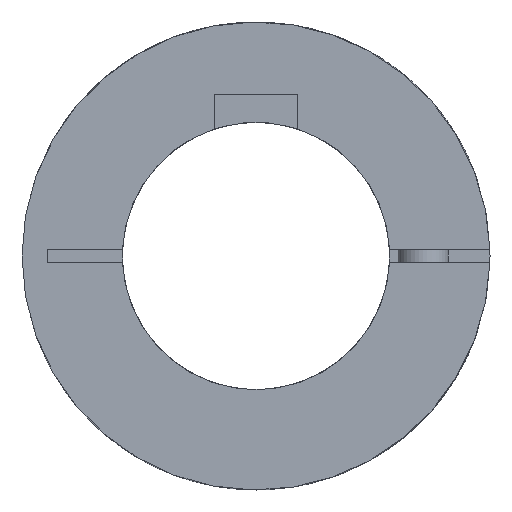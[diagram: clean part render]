
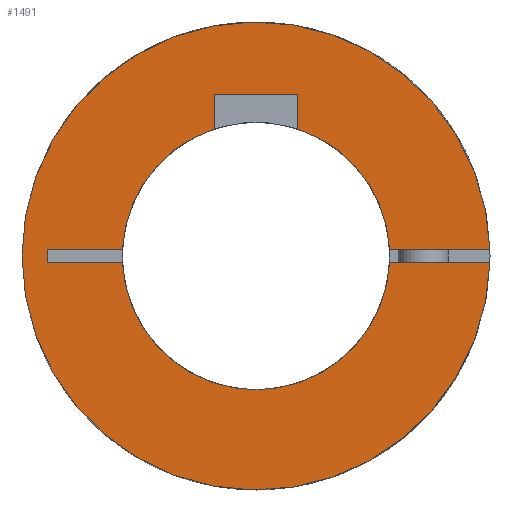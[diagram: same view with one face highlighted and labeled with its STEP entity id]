
A CAD part, left-side view. The second image highlights one B-rep face of the part: STEP entity #1491.
In plain terms, the highlighted planar face has unit normal (-1, 0, 0).
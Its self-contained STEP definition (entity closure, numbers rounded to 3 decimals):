
#23=PLANE('',#1696);
#141=LINE('',#2662,#252);
#144=LINE('',#2668,#255);
#145=LINE('',#2670,#256);
#155=LINE('',#2688,#266);
#157=LINE('',#2692,#268);
#160=LINE('',#2698,#271);
#161=LINE('',#2699,#272);
#162=LINE('',#2700,#273);
#252=VECTOR('',#2041,1.);
#255=VECTOR('',#2046,1.);
#256=VECTOR('',#2049,1.);
#266=VECTOR('',#2067,23.047);
#268=VECTOR('',#2071,20.057);
#271=VECTOR('',#2076,20.057);
#272=VECTOR('',#2077,1.5);
#273=VECTOR('',#2078,23.047);
#385=FACE_OUTER_BOUND('',#478,.T.);
#478=EDGE_LOOP('',(#1221,#1222,#1223,#1224,#1225,#1226,#1227,#1228,#1229,
#1230,#1231,#1232));
#609=CIRCLE('',#1639,28.);
#638=CIRCLE('',#1681,16.);
#641=CIRCLE('',#1685,16.);
#643=CIRCLE('',#1687,16.);
#701=VERTEX_POINT('',#2452);
#702=VERTEX_POINT('',#2454);
#741=VERTEX_POINT('',#2632);
#742=VERTEX_POINT('',#2633);
#747=VERTEX_POINT('',#2644);
#748=VERTEX_POINT('',#2646);
#751=VERTEX_POINT('',#2652);
#752=VERTEX_POINT('',#2654);
#754=VERTEX_POINT('',#2660);
#756=VERTEX_POINT('',#2666);
#761=VERTEX_POINT('',#2691);
#763=VERTEX_POINT('',#2697);
#867=EDGE_CURVE('',#701,#702,#609,.T.);
#918=EDGE_CURVE('',#741,#742,#638,.T.);
#924=EDGE_CURVE('',#748,#747,#641,.T.);
#928=EDGE_CURVE('',#752,#751,#643,.T.);
#932=EDGE_CURVE('',#751,#754,#141,.T.);
#935=EDGE_CURVE('',#754,#756,#144,.T.);
#936=EDGE_CURVE('',#756,#748,#145,.T.);
#946=EDGE_CURVE('',#701,#741,#155,.T.);
#948=EDGE_CURVE('',#761,#752,#157,.T.);
#951=EDGE_CURVE('',#763,#742,#160,.T.);
#952=EDGE_CURVE('',#761,#763,#161,.T.);
#953=EDGE_CURVE('',#747,#702,#162,.T.);
#1221=ORIENTED_EDGE('',*,*,#918,.T.);
#1222=ORIENTED_EDGE('',*,*,#951,.F.);
#1223=ORIENTED_EDGE('',*,*,#952,.F.);
#1224=ORIENTED_EDGE('',*,*,#948,.T.);
#1225=ORIENTED_EDGE('',*,*,#928,.T.);
#1226=ORIENTED_EDGE('',*,*,#932,.T.);
#1227=ORIENTED_EDGE('',*,*,#935,.T.);
#1228=ORIENTED_EDGE('',*,*,#936,.T.);
#1229=ORIENTED_EDGE('',*,*,#924,.T.);
#1230=ORIENTED_EDGE('',*,*,#953,.T.);
#1231=ORIENTED_EDGE('',*,*,#867,.F.);
#1232=ORIENTED_EDGE('',*,*,#946,.T.);
#1491=ADVANCED_FACE('',(#385),#23,.T.);
#1639=AXIS2_PLACEMENT_3D('',#2455,#1914,#1915);
#1681=AXIS2_PLACEMENT_3D('',#2634,#2017,#2018);
#1685=AXIS2_PLACEMENT_3D('',#2647,#2028,#2029);
#1687=AXIS2_PLACEMENT_3D('',#2655,#2034,#2035);
#1696=AXIS2_PLACEMENT_3D('',#2696,#2074,#2075);
#1914=DIRECTION('center_axis',(1.,0.,0.));
#1915=DIRECTION('ref_axis',(0.,1.,0.));
#2017=DIRECTION('center_axis',(1.,0.,0.));
#2018=DIRECTION('ref_axis',(0.,0.,1.));
#2028=DIRECTION('center_axis',(1.,0.,0.));
#2029=DIRECTION('ref_axis',(0.,0.,1.));
#2034=DIRECTION('center_axis',(1.,0.,0.));
#2035=DIRECTION('ref_axis',(0.,0.,1.));
#2041=DIRECTION('',(0.,0.,1.));
#2046=DIRECTION('',(0.,-1.,0.));
#2049=DIRECTION('',(0.,0.,-1.));
#2067=DIRECTION('',(0.,1.,0.));
#2071=DIRECTION('',(0.,-1.,0.));
#2074=DIRECTION('center_axis',(-1.,0.,0.));
#2075=DIRECTION('ref_axis',(0.,-1.,0.));
#2076=DIRECTION('',(0.,-1.,0.));
#2077=DIRECTION('',(0.,0.,-1.));
#2078=DIRECTION('',(0.,-1.,0.));
#2452=CARTESIAN_POINT('',(0.,-27.99,-0.75));
#2454=CARTESIAN_POINT('',(0.,-27.99,0.75));
#2455=CARTESIAN_POINT('Origin',(0.,0.,0.));
#2632=CARTESIAN_POINT('',(0.,-15.982,-0.75));
#2633=CARTESIAN_POINT('',(0.,15.982,-0.75));
#2634=CARTESIAN_POINT('Origin',(0.,0.,0.));
#2644=CARTESIAN_POINT('',(0.,-15.982,0.75));
#2646=CARTESIAN_POINT('',(0.,-5.,15.199));
#2647=CARTESIAN_POINT('Origin',(0.,0.,0.));
#2652=CARTESIAN_POINT('',(0.,5.,15.199));
#2654=CARTESIAN_POINT('',(0.,15.982,0.75));
#2655=CARTESIAN_POINT('Origin',(0.,0.,0.));
#2660=CARTESIAN_POINT('',(0.,5.,19.3));
#2662=CARTESIAN_POINT('',(0.,5.,18.825));
#2666=CARTESIAN_POINT('',(0.,-5.,19.3));
#2668=CARTESIAN_POINT('',(0.,0.,19.3));
#2670=CARTESIAN_POINT('',(0.,-5.,18.825));
#2688=CARTESIAN_POINT('',(0.,-27.99,-0.75));
#2691=CARTESIAN_POINT('',(0.,25.,0.75));
#2692=CARTESIAN_POINT('',(0.,25.,0.75));
#2696=CARTESIAN_POINT('Origin',(0.,0.,28.));
#2697=CARTESIAN_POINT('',(0.,25.,-0.75));
#2698=CARTESIAN_POINT('',(0.,25.,-0.75));
#2699=CARTESIAN_POINT('',(0.,25.,0.75));
#2700=CARTESIAN_POINT('',(0.,-4.943,0.75));
